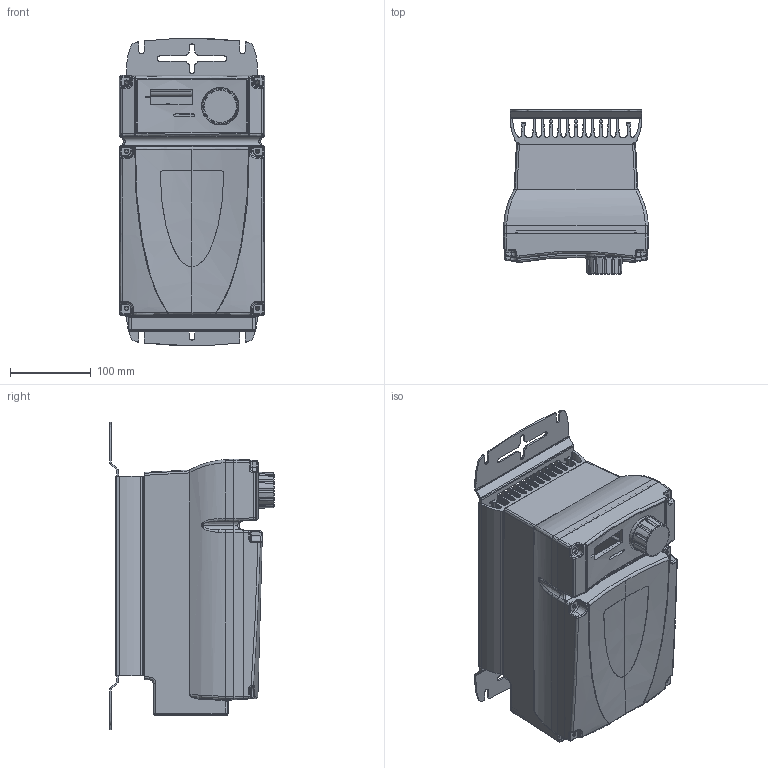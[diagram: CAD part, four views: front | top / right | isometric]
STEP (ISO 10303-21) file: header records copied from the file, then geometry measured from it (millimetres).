
FILE_DESCRIPTION((''),'2;1');
FILE_NAME('PROXIDRIVE_T1_ASM','2010-03-04T',('breuilhp'),(''),'PRO/ENGINEER BY PARAMETRIC TECHNOLOGY CORPORATION, 2009460','PRO/ENGINEER BY PARAMETRIC TECHNOLOGY CORPORATION, 2009460','');
FILE_SCHEMA(('CONFIG_CONTROL_DESIGN'));
Length unit declared in the file: inch
Products named in the file (12): PI_CE_3693; PI_CE_18131; PI_CE_5360; PI_CE_5197; PI_CE_43509; PI_CE_43510; PI_CE_43511; PI_CE_43512; 12-0-00E02-40; M4X10; 12-0-00E02-40_ASM; PROXIDRIVE_T1_ASM
Assembly tree (11 placements, depth 3):
  PROXIDRIVE_T1_ASM
    PI_CE_3693
    PI_CE_18131
    PI_CE_5360
    PI_CE_5197
    PI_CE_43509
    PI_CE_43510
    PI_CE_43511
    PI_CE_43512
    12-0-00E02-40_ASM
      12-0-00E02-40
      M4X10
Bounding box: 180 x 203.62 x 380 mm (x, y, z)
Volume: 1877016.2 mm3; surface area: 992631.9 mm2
Topology: 10 solids, 10 shells, 4498 faces, 12079 edges, 7700 vertices
Faces by surface type: cylinder 1690, plane 1495, cone 675, bspline 321, torus 225, extrusion 48, sphere 28, revolution 16
Entity records: 160618 total; most frequent: CARTESIAN_POINT 50087, ORIENTED_EDGE 24070, DIRECTION 21897, EDGE_CURVE 12035, AXIS2_PLACEMENT_3D 8068, VERTEX_POINT 7700, VECTOR 5745, LINE 5697
